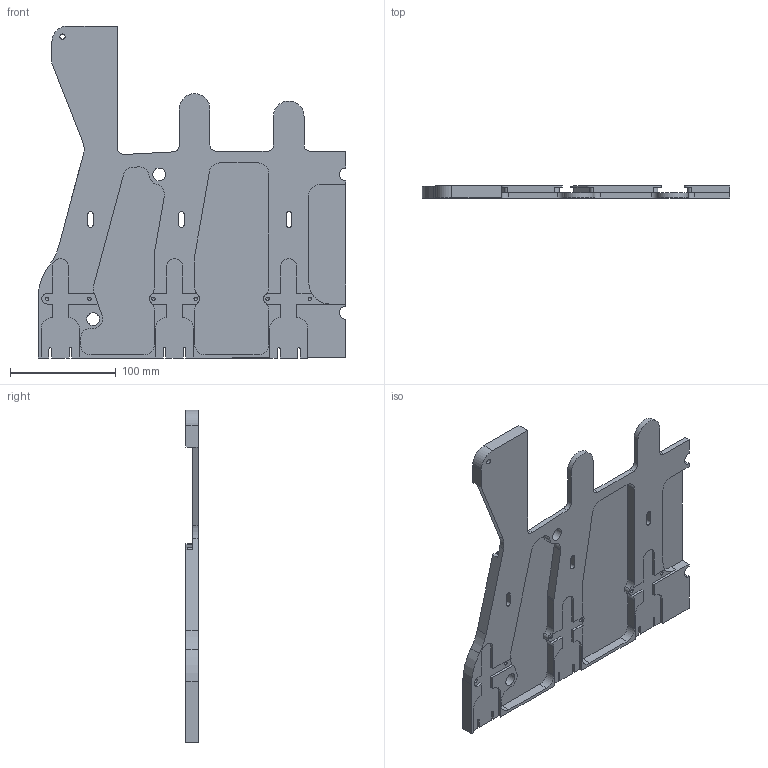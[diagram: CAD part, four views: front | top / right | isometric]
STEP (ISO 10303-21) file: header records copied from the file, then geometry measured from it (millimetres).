
FILE_DESCRIPTION(('STEP AP214'), '1');
FILE_NAME('P1.WSD5080.250.110.001 _ ﾍ瑜粱', '', ('UNSPECIFIED'), ('UNSPECIFIED'), 'C3D Converter', 'C3D Toolkit', '');
FILE_SCHEMA(('AUTOMOTIVE_DESIGN { 1 0 10303 214 3 1 1}'));
Length unit declared in the file: millimetre
Products named in the file (1): P1.WSD5080.250.110.001
Bounding box: 291 x 11.5 x 314 mm (x, y, z)
Volume: 309181.4 mm3; surface area: 163067 mm2
Topology: 1 solids, 1 shells, 241 faces, 704 edges, 467 vertices
Faces by surface type: plane 143, cylinder 92, cone 6
Full cylindrical faces by diameter (mm): 3.242 x6, 4.917 x1, 8 x2, 12 x1, 12.1 x1
Entity records: 7913 total; most frequent: CARTESIAN_POINT 1384, ORIENTED_EDGE 1362, DIRECTION 1356, EDGE_CURVE 681, LINE 490, VECTOR 490, VERTEX_POINT 461, AXIS2_PLACEMENT_3D 433
